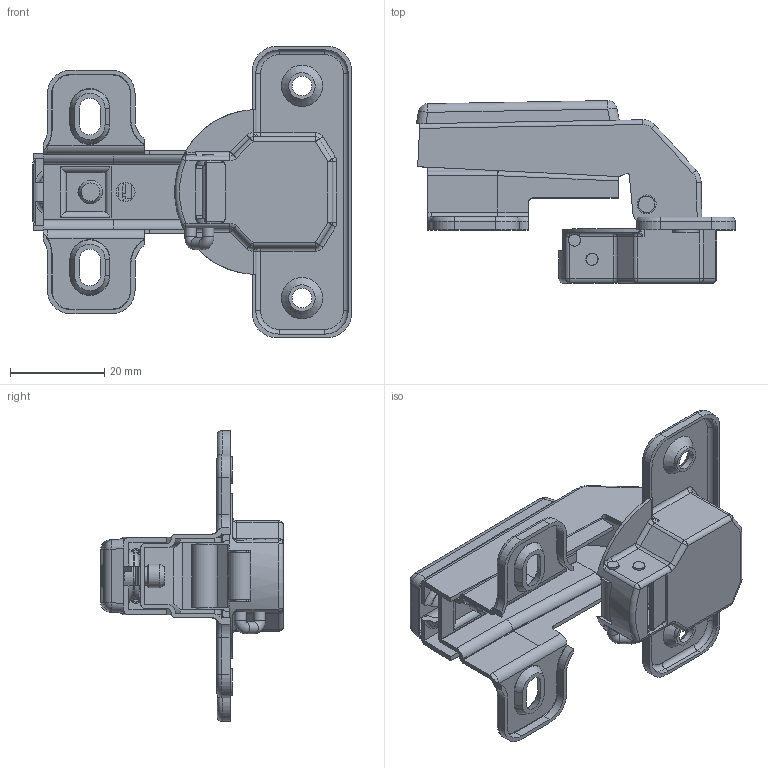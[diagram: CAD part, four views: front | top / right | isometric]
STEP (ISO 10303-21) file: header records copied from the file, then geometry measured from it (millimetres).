
FILE_DESCRIPTION(/* description */ (''),/* implementation_level */ '2;1');
FILE_NAME(/* name */ 'W:\R&D\pub\Katalog techniczny\bryły 3D\ZP-KTK90H6-BE.stp',/* time_stamp */ '2016-09-14T10:37:40+02:00',/* author */ ('tomaszw'),/* organization */ (''),/* preprocessor_version */ 'ST-DEVELOPER v16.1',/* originating_system */ 'Autodesk Inventor 2016',/* authorisation */ '');
FILE_SCHEMA (('AUTOMOTIVE_DESIGN { 1 0 10303 214 3 1 1 }'));
Length unit declared in the file: millimetre
Products named in the file (12): PrKT6; ZP-KT(K)(N)_pin3; ZP-KTK90H6_R; ZP-KTK90H6_pin1; ZP-KTK90H6_pin2; ZP-KTK90H6_L2; ZP-KTK90H6_L1; ZP-KTK90H6_P; WR; Wkret4x6; ZP-PO_pok; ZP-KT(K)(N)
Assembly tree (11 placements, depth 2):
  ZP-KT(K)(N)
    PrKT6
    ZP-KT(K)(N)_pin3
    ZP-KTK90H6_R
    ZP-KTK90H6_pin1
    ZP-KTK90H6_pin2
    ZP-KTK90H6_L2
    ZP-KTK90H6_L1
    ZP-KTK90H6_P
    WR
    Wkret4x6
    ZP-PO_pok
Bounding box: 67.65 x 38.74 x 61.7 mm (x, y, z)
Volume: 9463.9 mm3; surface area: 22243.4 mm2
Topology: 11 solids, 11 shells, 824 faces, 2081 edges, 1283 vertices
Faces by surface type: cylinder 334, plane 299, torus 88, bspline 53, sphere 32, cone 18
Full cylindrical faces by diameter (mm): 2.5 x3, 2.511 x2, 2.6 x5, 2.64 x2, 2.647 x1, 3.242 x1, 3.507 x3, 3.589 x3, 4 x6, 4.2 x2, 5 x1, 5.6 x2, 6 x2, 7 x1
Entity records: 26400 total; most frequent: CARTESIAN_POINT 6191, DIRECTION 4261, ORIENTED_EDGE 4048, EDGE_CURVE 2024, AXIS2_PLACEMENT_3D 1598, VERTEX_POINT 1273, LINE 1065, VECTOR 1065
